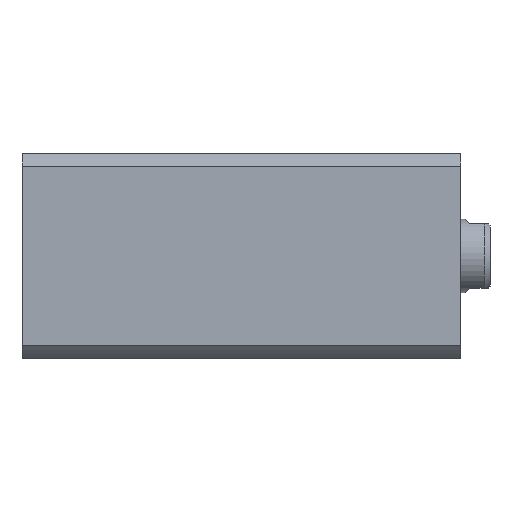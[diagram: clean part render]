
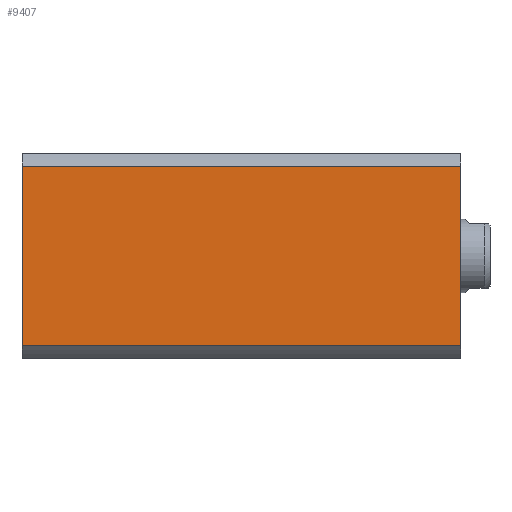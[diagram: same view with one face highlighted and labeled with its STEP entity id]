
A CAD part, left-side view. The second image highlights one B-rep face of the part: STEP entity #9407.
In plain terms, the highlighted planar face has unit normal (-1, 0, 0).
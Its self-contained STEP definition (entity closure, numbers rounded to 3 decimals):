
#56 = CARTESIAN_POINT ( 'NONE',  ( -35., 30.615, 150. ) ) ;
#545 = CARTESIAN_POINT ( 'NONE',  ( -35., 35., 150. ) ) ;
#801 = VECTOR ( 'NONE', #8840, 1000. ) ;
#1080 = VERTEX_POINT ( 'NONE', #56 ) ;
#1160 = AXIS2_PLACEMENT_3D ( 'NONE', #545, #2086, #7530 ) ;
#2086 = DIRECTION ( 'NONE',  ( 1., 0., 0. ) ) ;
#2438 = VERTEX_POINT ( 'NONE', #6266 ) ;
#2602 = LINE ( 'NONE', #5756, #7735 ) ;
#2760 = ORIENTED_EDGE ( 'NONE', *, *, #3676, .F. ) ;
#2837 = LINE ( 'NONE', #3384, #801 ) ;
#3110 = VECTOR ( 'NONE', #4013, 1000. ) ;
#3384 = CARTESIAN_POINT ( 'NONE',  ( -35., 35., 150. ) ) ;
#3471 = CARTESIAN_POINT ( 'NONE',  ( -35., -30.615, 300. ) ) ;
#3532 = EDGE_CURVE ( 'NONE', #8855, #1080, #2602, .T. ) ;
#3647 = DIRECTION ( 'NONE',  ( 0., 0., -1. ) ) ;
#3676 = EDGE_CURVE ( 'NONE', #1080, #9951, #2837, .T. ) ;
#4013 = DIRECTION ( 'NONE',  ( 0., -1., 0. ) ) ;
#4102 = CARTESIAN_POINT ( 'NONE',  ( -35., -30.615, 150. ) ) ;
#4325 = EDGE_CURVE ( 'NONE', #9951, #2438, #8692, .T. ) ;
#4980 = DIRECTION ( 'NONE',  ( 0., 0., 1. ) ) ;
#5174 = LINE ( 'NONE', #9454, #3110 ) ;
#5688 = CARTESIAN_POINT ( 'NONE',  ( -35., 30.615, 0. ) ) ;
#5756 = CARTESIAN_POINT ( 'NONE',  ( -35., 30.615, 300. ) ) ;
#5948 = ORIENTED_EDGE ( 'NONE', *, *, #3532, .F. ) ;
#6070 = ORIENTED_EDGE ( 'NONE', *, *, #8307, .T. ) ;
#6266 = CARTESIAN_POINT ( 'NONE',  ( -35., -30.615, 0. ) ) ;
#6851 = VECTOR ( 'NONE', #3647, 1000. ) ;
#7460 = ORIENTED_EDGE ( 'NONE', *, *, #4325, .F. ) ;
#7530 = DIRECTION ( 'NONE',  ( 0., 1., 0. ) ) ;
#7735 = VECTOR ( 'NONE', #4980, 1000. ) ;
#8307 = EDGE_CURVE ( 'NONE', #8855, #2438, #5174, .T. ) ;
#8331 = EDGE_LOOP ( 'NONE', ( #7460, #2760, #5948, #6070 ) ) ;
#8599 = FACE_OUTER_BOUND ( 'NONE', #8331, .T. ) ;
#8692 = LINE ( 'NONE', #3471, #6851 ) ;
#8840 = DIRECTION ( 'NONE',  ( 0., -1., 0. ) ) ;
#8855 = VERTEX_POINT ( 'NONE', #5688 ) ;
#9407 = ADVANCED_FACE ( 'NONE', ( #8599 ), #9831, .F. ) ;
#9454 = CARTESIAN_POINT ( 'NONE',  ( -35., 35., 0. ) ) ;
#9831 = PLANE ( 'NONE',  #1160 ) ;
#9951 = VERTEX_POINT ( 'NONE', #4102 ) ;
